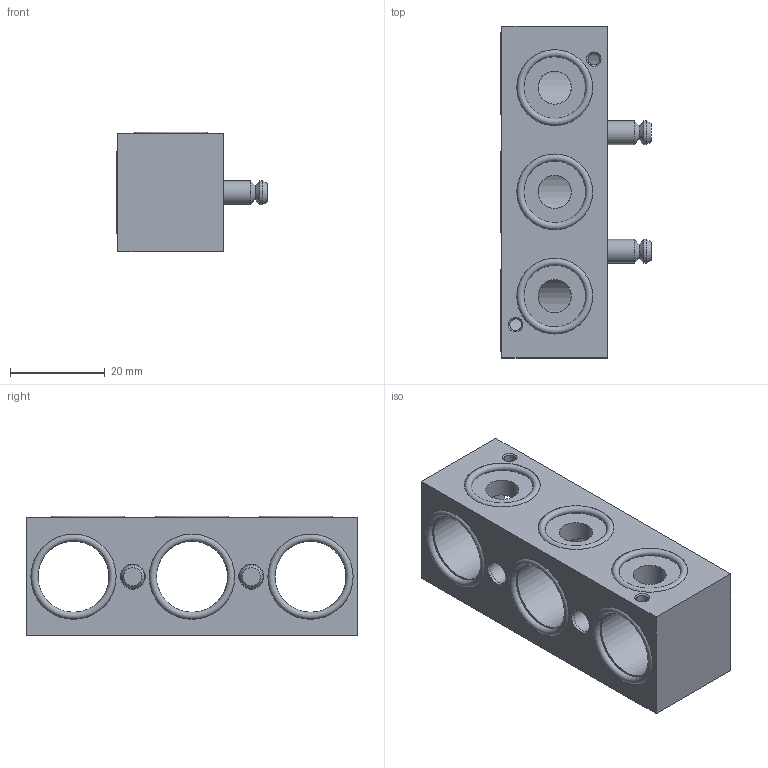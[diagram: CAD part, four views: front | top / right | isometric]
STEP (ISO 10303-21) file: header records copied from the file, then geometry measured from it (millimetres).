
FILE_DESCRIPTION( ( 'Unknown' ), '1' );
FILE_NAME( 'Q:/Solid Edge ST4/STEP/R 5 703 G.stp', 'Unknown', ( 'Unknown' ), ( 'Unknown' ), 'PSStep 17.0.49', 'Unknown', ' ' );
FILE_SCHEMA( ( 'AUTOMOTIVE_DESIGN { 1 0 10303 214 1 1 1 1 }' ) );
Length unit declared in the file: millimetre
Products named in the file (12): Assem1
Assembly tree (11 placements, depth 2):
  Assem1
    (unnamed)
    (unnamed)
    (unnamed)
    (unnamed)
    (unnamed)
    (unnamed)
    (unnamed)
    (unnamed)
    (unnamed)
    (unnamed)
    (unnamed)
Bounding box: 31.85 x 70 x 25.3 mm (x, y, z)
Surface area: 13359.6 mm2 (no closed solid volume)
Topology: 0 solids, 86 shells, 86 faces, 313 edges, 259 vertices
Faces by surface type: plane 32, cylinder 24, cone 24, torus 6
Full cylindrical faces by diameter (mm): 2.459 x2, 4.134 x2, 5 x8, 7 x3, 15 x3, 16 x3, 18 x3
Entity records: 4279 total; most frequent: CARTESIAN_POINT 1620, DIRECTION 488, VERTEX_POINT 240, ORIENTED_EDGE 232, EDGE_CURVE 232, AXIS2_PLACEMENT_3D 220, FACE_BOUND 166, EDGE_LOOP 158
